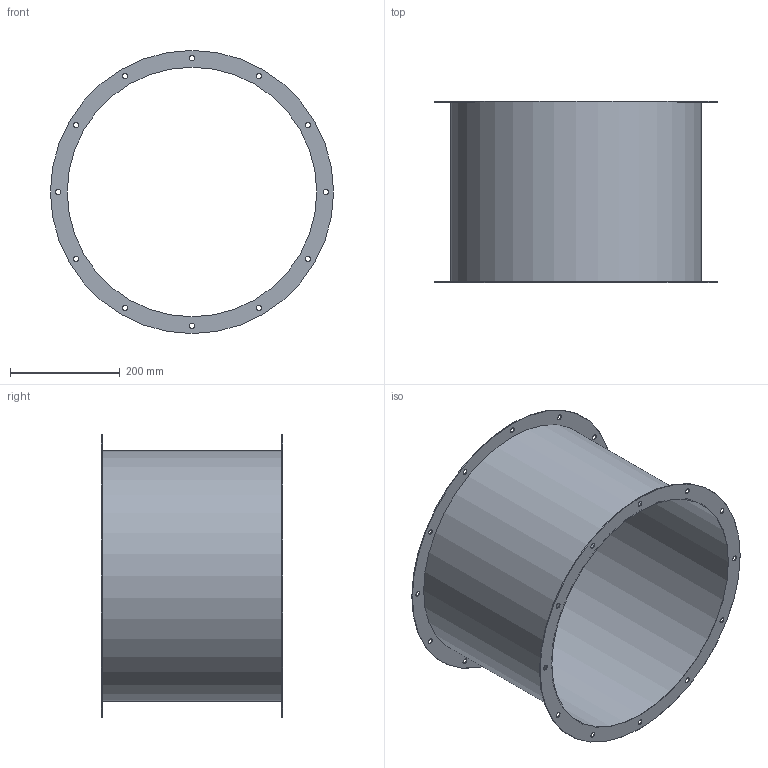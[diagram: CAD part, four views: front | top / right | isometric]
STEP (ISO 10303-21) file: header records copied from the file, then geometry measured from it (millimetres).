
FILE_DESCRIPTION(/* description */ (''),/* implementation_level */ '2;1');
FILE_NAME(/* name */ 'Z:\Output\VR_450-01407-001.stp',/* time_stamp */ '2020-05-11T11:52:54+02:00',/* author */ ('jayeshpanchal'),/* organization */ (''),/* preprocessor_version */ 'ST-DEVELOPER v17.2',/* originating_system */ 'Autodesk Inventor 2019',/* authorisation */ '');
FILE_SCHEMA (('AUTOMOTIVE_DESIGN { 1 0 10303 214 3 1 1 }'));
Length unit declared in the file: millimetre
Products named in the file (1): VR-1
Bounding box: 515 x 330 x 515 mm (x, y, z)
Volume: 838623.8 mm3; surface area: 1124079.1 mm2
Topology: 1 solids, 1 shells, 32 faces, 92 edges, 64 vertices
Faces by surface type: cylinder 28, plane 4
Full cylindrical faces by diameter (mm): 9.5 x24, 454 x1, 457 x1, 515 x2
Entity records: 1245 total; most frequent: DIRECTION 222, CARTESIAN_POINT 189, ORIENTED_EDGE 184, AXIS2_PLACEMENT_3D 97, EDGE_CURVE 92, EDGE_LOOP 84, CIRCLE 64, VERTEX_POINT 64
